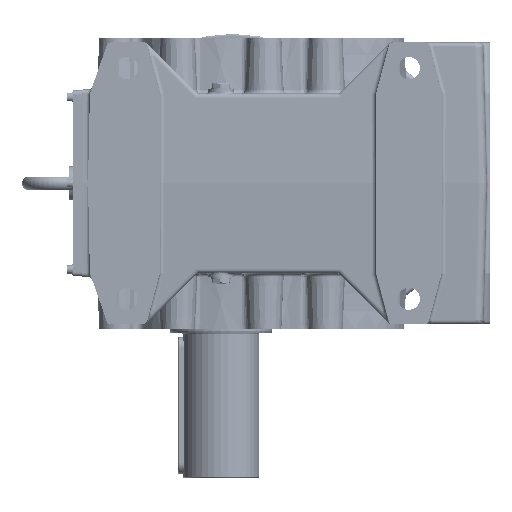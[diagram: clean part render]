
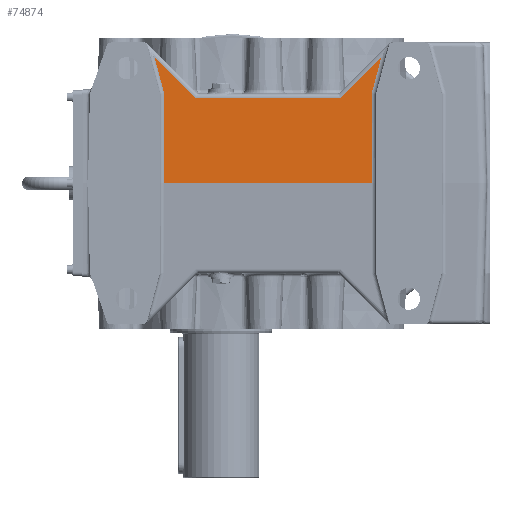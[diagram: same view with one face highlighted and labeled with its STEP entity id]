
A CAD part, left-side view. The second image highlights one B-rep face of the part: STEP entity #74874.
In plain terms, the highlighted planar face has unit normal (-1, 0, 0.026).
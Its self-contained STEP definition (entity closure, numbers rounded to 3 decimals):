
#50379=CARTESIAN_POINT('',(-192.128,29.571,100.131));
#50380=VERTEX_POINT('',#50379);
#50388=CARTESIAN_POINT('',(-192.128,-139.571,100.131));
#50389=VERTEX_POINT('',#50388);
#50390=CARTESIAN_POINT('',(-192.128,29.571,100.131));
#50391=DIRECTION('',(0.0,-1.0,0.0));
#50392=VECTOR('',#50391,169.142);
#50393=LINE('',#50390,#50392);
#50394=EDGE_CURVE('',#50380,#50389,#50393,.T.);
#56538=CARTESIAN_POINT('',(-191.986,-176.5,105.524));
#56539=VERTEX_POINT('',#56538);
#56594=CARTESIAN_POINT('',(-190.86,-187.967,148.527));
#56595=VERTEX_POINT('',#56594);
#56603=CARTESIAN_POINT('',(-190.86,-187.967,148.527));
#56604=DIRECTION('',(-0.025,0.258,-0.966));
#56605=VECTOR('',#56604,44.52);
#56606=LINE('',#56603,#56605);
#56607=EDGE_CURVE('',#56595,#56539,#56606,.T.);
#56936=CARTESIAN_POINT('',(-194.75,66.5,0.0));
#56937=VERTEX_POINT('',#56936);
#57021=CARTESIAN_POINT('',(-191.986,66.5,105.524));
#57022=VERTEX_POINT('',#57021);
#57101=CARTESIAN_POINT('',(-190.86,77.967,148.527));
#57102=VERTEX_POINT('',#57101);
#57103=CARTESIAN_POINT('',(-191.986,66.5,105.524));
#57104=DIRECTION('',(0.025,0.258,0.966));
#57105=VECTOR('',#57104,44.52);
#57106=LINE('',#57103,#57105);
#57107=EDGE_CURVE('',#57022,#57102,#57106,.T.);
#58228=CARTESIAN_POINT('',(-194.75,66.5,0.));
#58229=DIRECTION('',(0.026,0.0,1.));
#58230=VECTOR('',#58229,105.561);
#58231=LINE('',#58228,#58230);
#58232=EDGE_CURVE('',#56937,#57022,#58231,.T.);
#58979=CARTESIAN_POINT('',(-194.75,-176.5,0.0));
#58980=VERTEX_POINT('',#58979);
#59004=CARTESIAN_POINT('',(-191.986,-176.5,105.524));
#59005=DIRECTION('',(-0.026,0.0,-1.));
#59006=VECTOR('',#59005,105.561);
#59007=LINE('',#59004,#59006);
#59008=EDGE_CURVE('',#56539,#58980,#59007,.T.);
#61226=CARTESIAN_POINT('',(-192.128,-139.571,100.131));
#61227=DIRECTION('',(0.019,-0.707,0.707));
#61228=VECTOR('',#61227,68.455);
#61229=LINE('',#61226,#61228);
#61230=EDGE_CURVE('',#50389,#56595,#61229,.T.);
#61372=CARTESIAN_POINT('',(-190.86,77.967,148.527));
#61373=DIRECTION('',(-0.019,-0.707,-0.707));
#61374=VECTOR('',#61373,68.455);
#61375=LINE('',#61372,#61374);
#61376=EDGE_CURVE('',#57102,#50380,#61375,.T.);
#74854=CARTESIAN_POINT('',(-194.749,-307.0,0.036));
#74855=DIRECTION('',(-1.,0.,0.026));
#74856=DIRECTION('',(0.026,0.,1.));
#74857=AXIS2_PLACEMENT_3D('',#74854,#74855,#74856);
#74858=PLANE('',#74857);
#74859=ORIENTED_EDGE('',*,*,#58232,.F.);
#74860=CARTESIAN_POINT('',(-194.75,66.5,0.0));
#74861=DIRECTION('',(0.0,-1.0,0.0));
#74862=VECTOR('',#74861,243.0);
#74863=LINE('',#74860,#74862);
#74864=EDGE_CURVE('',#56937,#58980,#74863,.T.);
#74865=ORIENTED_EDGE('',*,*,#74864,.T.);
#74866=ORIENTED_EDGE('',*,*,#59008,.F.);
#74867=ORIENTED_EDGE('',*,*,#56607,.F.);
#74868=ORIENTED_EDGE('',*,*,#61230,.F.);
#74869=ORIENTED_EDGE('',*,*,#50394,.F.);
#74870=ORIENTED_EDGE('',*,*,#61376,.F.);
#74871=ORIENTED_EDGE('',*,*,#57107,.F.);
#74872=EDGE_LOOP('',(#74859,#74865,#74866,#74867,#74868,#74869,#74870,#74871));
#74873=FACE_OUTER_BOUND('',#74872,.T.);
#74874=ADVANCED_FACE('',(#74873),#74858,.T.);
